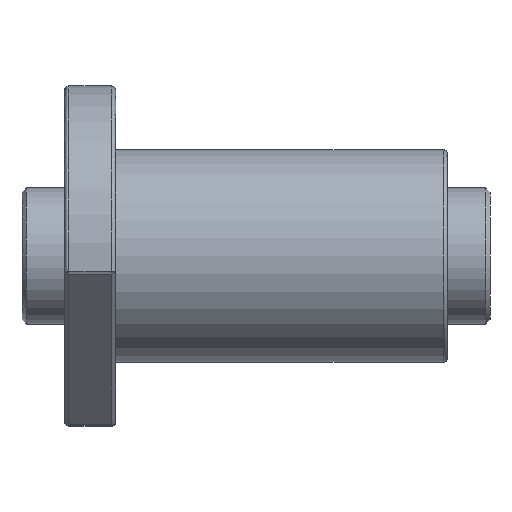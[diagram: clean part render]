
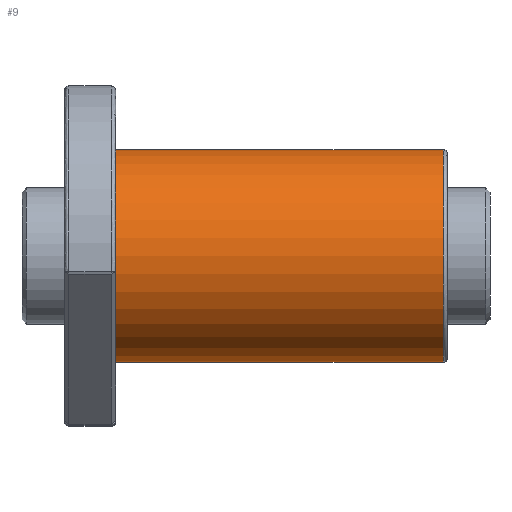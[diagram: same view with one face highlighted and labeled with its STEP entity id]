
A CAD part, front view. The second image highlights one B-rep face of the part: STEP entity #9.
In plain terms, the highlighted cylindrical face has radius 25 mm (diameter 50 mm), a partial arc.
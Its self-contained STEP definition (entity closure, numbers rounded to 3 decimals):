
#9 = ADVANCED_FACE ( 'NONE', ( #4502 ), #601, .T. ) ;
#443 = VERTEX_POINT ( 'NONE', #648 ) ;
#482 = EDGE_CURVE ( 'NONE', #443, #6076, #1411, .T. ) ;
#502 = LINE ( 'NONE', #3616, #1315 ) ;
#601 = CYLINDRICAL_SURFACE ( 'NONE', #1739, 25. ) ;
#640 = EDGE_LOOP ( 'NONE', ( #5621, #905, #3910, #4174 ) ) ;
#648 = CARTESIAN_POINT ( 'NONE',  ( 89., 0., -25. ) ) ;
#662 = VERTEX_POINT ( 'NONE', #1265 ) ;
#867 = AXIS2_PLACEMENT_3D ( 'NONE', #3054, #1140, #3511 ) ;
#905 = ORIENTED_EDGE ( 'NONE', *, *, #482, .T. ) ;
#1140 = DIRECTION ( 'NONE',  ( -1., 0., 0. ) ) ;
#1265 = CARTESIAN_POINT ( 'NONE',  ( 12., 0., -25. ) ) ;
#1315 = VECTOR ( 'NONE', #4634, 1000. ) ;
#1411 = CIRCLE ( 'NONE', #867, 25. ) ;
#1604 = CIRCLE ( 'NONE', #2005, 25. ) ;
#1739 = AXIS2_PLACEMENT_3D ( 'NONE', #2878, #2842, #4229 ) ;
#2005 = AXIS2_PLACEMENT_3D ( 'NONE', #4735, #5650, #5213 ) ;
#2781 = LINE ( 'NONE', #4351, #5407 ) ;
#2842 = DIRECTION ( 'NONE',  ( -1., 0., 0. ) ) ;
#2878 = CARTESIAN_POINT ( 'NONE',  ( 90., 0., 0. ) ) ;
#2915 = CARTESIAN_POINT ( 'NONE',  ( 89., 0., 25. ) ) ;
#2974 = CARTESIAN_POINT ( 'NONE',  ( 12., 0., 25. ) ) ;
#3054 = CARTESIAN_POINT ( 'NONE',  ( 89., 0., 0. ) ) ;
#3417 = EDGE_CURVE ( 'NONE', #6076, #5967, #502, .T. ) ;
#3511 = DIRECTION ( 'NONE',  ( 0., 0., 1. ) ) ;
#3616 = CARTESIAN_POINT ( 'NONE',  ( 90., 0., 25. ) ) ;
#3890 = DIRECTION ( 'NONE',  ( -1., 0., 0. ) ) ;
#3910 = ORIENTED_EDGE ( 'NONE', *, *, #3417, .T. ) ;
#4174 = ORIENTED_EDGE ( 'NONE', *, *, #4184, .T. ) ;
#4184 = EDGE_CURVE ( 'NONE', #5967, #662, #1604, .T. ) ;
#4229 = DIRECTION ( 'NONE',  ( 0., 0., 1. ) ) ;
#4351 = CARTESIAN_POINT ( 'NONE',  ( 90., 0., -25. ) ) ;
#4502 = FACE_OUTER_BOUND ( 'NONE', #640, .T. ) ;
#4634 = DIRECTION ( 'NONE',  ( -1., 0., 0. ) ) ;
#4735 = CARTESIAN_POINT ( 'NONE',  ( 12., 0., 0. ) ) ;
#5213 = DIRECTION ( 'NONE',  ( 0., 0., 1. ) ) ;
#5407 = VECTOR ( 'NONE', #3890, 1000. ) ;
#5621 = ORIENTED_EDGE ( 'NONE', *, *, #6037, .F. ) ;
#5650 = DIRECTION ( 'NONE',  ( 1., 0., 0. ) ) ;
#5967 = VERTEX_POINT ( 'NONE', #2974 ) ;
#6037 = EDGE_CURVE ( 'NONE', #443, #662, #2781, .T. ) ;
#6076 = VERTEX_POINT ( 'NONE', #2915 ) ;
